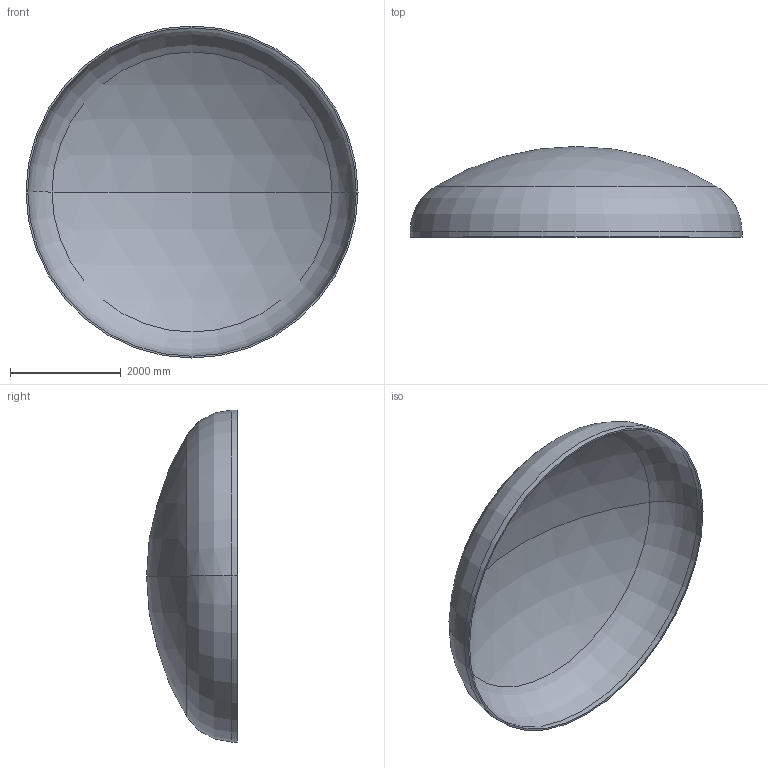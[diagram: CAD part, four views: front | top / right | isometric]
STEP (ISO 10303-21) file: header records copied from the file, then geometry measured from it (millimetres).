
FILE_DESCRIPTION (( 'STEP AP203' ), '1' );
FILE_NAME ('DIN 28013 Korbbogenform_-_Boden DIN 28013 - 6000 x 100 - I - s=32.step', '2016-07-04T10:36:33', ( '' ), ( '' ), 'SwSTEP 2.0', 'SolidWorks 2013', '' );
FILE_SCHEMA (( 'CONFIG_CONTROL_DESIGN' ));
Length unit declared in the file: millimetre
Products named in the file (1): DIN 28013 Korbbogenform_-_Boden DIN 28013 - 6000 x 100 - I - s=32
Bounding box: 6000 x 1639.31 x 6000 mm (x, y, z)
Volume: 1304598552.9 mm3; surface area: 82139490.9 mm2
Topology: 1 solids, 1 shells, 13 faces, 24 edges, 14 vertices
Faces by surface type: torus 4, cylinder 4, sphere 4, plane 1
Entity records: 407 total; most frequent: DIRECTION 72, CARTESIAN_POINT 52, ORIENTED_EDGE 48, AXIS2_PLACEMENT_3D 34, EDGE_CURVE 24, CIRCLE 20, VERTEX_POINT 14, EDGE_LOOP 14
